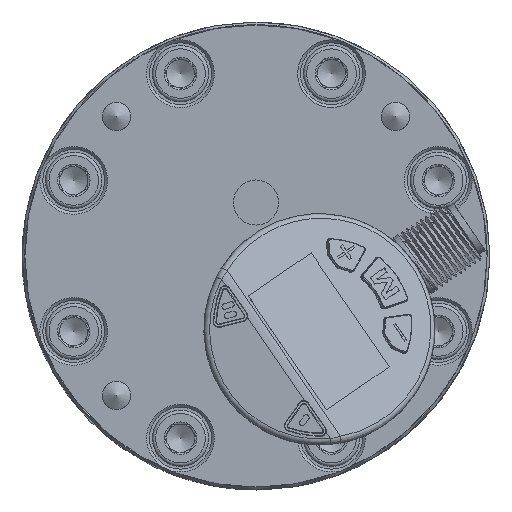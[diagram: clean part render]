
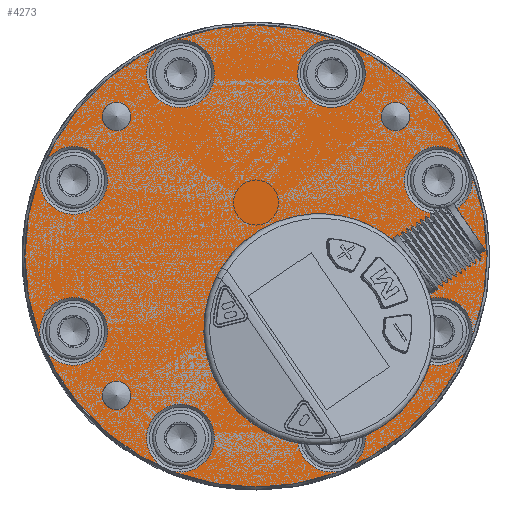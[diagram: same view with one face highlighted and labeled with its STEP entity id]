
A CAD part, top view. The second image highlights one B-rep face of the part: STEP entity #4273.
In plain terms, the highlighted planar face has unit normal (0, 0, -1).
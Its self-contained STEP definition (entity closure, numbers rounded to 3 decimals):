
#4273=ADVANCED_FACE('',(#5329,#5330,#5331,#5332,#5333,#5334,#5335,#5336,
#5337,#5338,#5339,#5340,#5341),#4970,.F.);
#4970=PLANE('',#13685);
#5329=FACE_BOUND('',#6110,.T.);
#5330=FACE_BOUND('',#6111,.T.);
#5331=FACE_BOUND('',#6112,.T.);
#5332=FACE_BOUND('',#6113,.T.);
#5333=FACE_BOUND('',#6114,.T.);
#5334=FACE_BOUND('',#6115,.T.);
#5335=FACE_BOUND('',#6116,.T.);
#5336=FACE_BOUND('',#6117,.T.);
#5337=FACE_BOUND('',#6118,.T.);
#5338=FACE_BOUND('',#6119,.T.);
#5339=FACE_BOUND('',#6120,.T.);
#5340=FACE_BOUND('',#6121,.T.);
#5341=FACE_BOUND('',#6122,.T.);
#6110=EDGE_LOOP('',(#7669));
#6111=EDGE_LOOP('',(#7670));
#6112=EDGE_LOOP('',(#7671));
#6113=EDGE_LOOP('',(#7672));
#6114=EDGE_LOOP('',(#7673));
#6115=EDGE_LOOP('',(#7674));
#6116=EDGE_LOOP('',(#7675));
#6117=EDGE_LOOP('',(#7676));
#6118=EDGE_LOOP('',(#7677));
#6119=EDGE_LOOP('',(#7678));
#6120=EDGE_LOOP('',(#7679));
#6121=EDGE_LOOP('',(#7680));
#6122=EDGE_LOOP('',(#7681));
#7669=ORIENTED_EDGE('',*,*,#11407,.T.);
#7670=ORIENTED_EDGE('',*,*,#11377,.T.);
#7671=ORIENTED_EDGE('',*,*,#11369,.T.);
#7672=ORIENTED_EDGE('',*,*,#11349,.T.);
#7673=ORIENTED_EDGE('',*,*,#11365,.T.);
#7674=ORIENTED_EDGE('',*,*,#11373,.T.);
#7675=ORIENTED_EDGE('',*,*,#11353,.T.);
#7676=ORIENTED_EDGE('',*,*,#11361,.T.);
#7677=ORIENTED_EDGE('',*,*,#11357,.T.);
#7678=ORIENTED_EDGE('',*,*,#11408,.T.);
#7679=ORIENTED_EDGE('',*,*,#11409,.T.);
#7680=ORIENTED_EDGE('',*,*,#11410,.T.);
#7681=ORIENTED_EDGE('',*,*,#11411,.T.);
#10161=VERTEX_POINT('',#19131);
#10165=VERTEX_POINT('',#19142);
#10169=VERTEX_POINT('',#19153);
#10173=VERTEX_POINT('',#19164);
#10177=VERTEX_POINT('',#19175);
#10181=VERTEX_POINT('',#19186);
#10185=VERTEX_POINT('',#19197);
#10189=VERTEX_POINT('',#19208);
#10211=VERTEX_POINT('',#19264);
#10212=VERTEX_POINT('',#19266);
#10213=VERTEX_POINT('',#19268);
#10214=VERTEX_POINT('',#19270);
#10215=VERTEX_POINT('',#19272);
#11349=EDGE_CURVE('',#10161,#10161,#12680,.T.);
#11353=EDGE_CURVE('',#10165,#10165,#12684,.T.);
#11357=EDGE_CURVE('',#10169,#10169,#12688,.T.);
#11361=EDGE_CURVE('',#10173,#10173,#12692,.T.);
#11365=EDGE_CURVE('',#10177,#10177,#12696,.T.);
#11369=EDGE_CURVE('',#10181,#10181,#12700,.T.);
#11373=EDGE_CURVE('',#10185,#10185,#12704,.T.);
#11377=EDGE_CURVE('',#10189,#10189,#12708,.T.);
#11407=EDGE_CURVE('',#10211,#10211,#12738,.T.);
#11408=EDGE_CURVE('',#10212,#10212,#12739,.T.);
#11409=EDGE_CURVE('',#10213,#10213,#12740,.T.);
#11410=EDGE_CURVE('',#10214,#10214,#12741,.T.);
#11411=EDGE_CURVE('',#10215,#10215,#12742,.T.);
#12680=CIRCLE('',#13597,3.25);
#12684=CIRCLE('',#13604,3.25);
#12688=CIRCLE('',#13611,3.25);
#12692=CIRCLE('',#13618,3.25);
#12696=CIRCLE('',#13625,3.25);
#12700=CIRCLE('',#13632,3.25);
#12704=CIRCLE('',#13639,3.25);
#12708=CIRCLE('',#13646,3.25);
#12738=CIRCLE('',#13680,41.);
#12739=CIRCLE('',#13681,2.5);
#12740=CIRCLE('',#13682,2.5);
#12741=CIRCLE('',#13683,2.5);
#12742=CIRCLE('',#13684,2.5);
#13597=AXIS2_PLACEMENT_3D('',#19130,#15590,#15591);
#13604=AXIS2_PLACEMENT_3D('',#19141,#15604,#15605);
#13611=AXIS2_PLACEMENT_3D('',#19152,#15618,#15619);
#13618=AXIS2_PLACEMENT_3D('',#19163,#15632,#15633);
#13625=AXIS2_PLACEMENT_3D('',#19174,#15646,#15647);
#13632=AXIS2_PLACEMENT_3D('',#19185,#15660,#15661);
#13639=AXIS2_PLACEMENT_3D('',#19196,#15674,#15675);
#13646=AXIS2_PLACEMENT_3D('',#19207,#15688,#15689);
#13680=AXIS2_PLACEMENT_3D('',#19263,#15756,#15757);
#13681=AXIS2_PLACEMENT_3D('',#19265,#15758,#15759);
#13682=AXIS2_PLACEMENT_3D('',#19267,#15760,#15761);
#13683=AXIS2_PLACEMENT_3D('',#19269,#15762,#15763);
#13684=AXIS2_PLACEMENT_3D('',#19271,#15764,#15765);
#13685=AXIS2_PLACEMENT_3D('',#19273,#15766,#15767);
#15590=DIRECTION('',(0.,0.,1.));
#15591=DIRECTION('',(1.,0.,0.));
#15604=DIRECTION('',(0.,0.,1.));
#15605=DIRECTION('',(1.,0.,0.));
#15618=DIRECTION('',(0.,0.,1.));
#15619=DIRECTION('',(1.,0.,0.));
#15632=DIRECTION('',(0.,0.,1.));
#15633=DIRECTION('',(1.,0.,0.));
#15646=DIRECTION('',(0.,0.,1.));
#15647=DIRECTION('',(1.,0.,0.));
#15660=DIRECTION('',(0.,0.,1.));
#15661=DIRECTION('',(1.,0.,0.));
#15674=DIRECTION('',(0.,0.,1.));
#15675=DIRECTION('',(1.,0.,0.));
#15688=DIRECTION('',(0.,0.,1.));
#15689=DIRECTION('',(1.,0.,0.));
#15756=DIRECTION('',(0.,0.,-1.));
#15757=DIRECTION('',(1.,0.,0.));
#15758=DIRECTION('',(0.,0.,1.));
#15759=DIRECTION('',(1.,0.,0.));
#15760=DIRECTION('',(0.,0.,1.));
#15761=DIRECTION('',(1.,0.,0.));
#15762=DIRECTION('',(0.,0.,1.));
#15763=DIRECTION('',(1.,0.,0.));
#15764=DIRECTION('',(0.,0.,1.));
#15765=DIRECTION('',(1.,0.,0.));
#15766=DIRECTION('',(0.,0.,1.));
#15767=DIRECTION('',(1.,0.,0.));
#19130=CARTESIAN_POINT('',(32.336,14.394,67.6));
#19131=CARTESIAN_POINT('',(35.586,14.394,67.6));
#19141=CARTESIAN_POINT('',(-13.394,-31.336,67.6));
#19142=CARTESIAN_POINT('',(-10.144,-31.336,67.6));
#19152=CARTESIAN_POINT('',(-32.336,14.394,67.6));
#19153=CARTESIAN_POINT('',(-29.086,14.394,67.6));
#19163=CARTESIAN_POINT('',(-32.336,-12.394,67.6));
#19164=CARTESIAN_POINT('',(-29.086,-12.394,67.6));
#19174=CARTESIAN_POINT('',(32.336,-12.394,67.6));
#19175=CARTESIAN_POINT('',(35.586,-12.394,67.6));
#19185=CARTESIAN_POINT('',(13.394,33.336,67.6));
#19186=CARTESIAN_POINT('',(16.644,33.336,67.6));
#19196=CARTESIAN_POINT('',(13.394,-31.336,67.6));
#19197=CARTESIAN_POINT('',(16.644,-31.336,67.6));
#19207=CARTESIAN_POINT('',(-13.394,33.336,67.6));
#19208=CARTESIAN_POINT('',(-10.144,33.336,67.6));
#19263=CARTESIAN_POINT('',(0.,1.,67.6));
#19264=CARTESIAN_POINT('',(41.,1.,67.6));
#19265=CARTESIAN_POINT('',(-24.749,-23.749,67.6));
#19266=CARTESIAN_POINT('',(-22.249,-23.749,67.6));
#19267=CARTESIAN_POINT('',(24.749,-23.749,67.6));
#19268=CARTESIAN_POINT('',(27.249,-23.749,67.6));
#19269=CARTESIAN_POINT('',(24.749,25.749,67.6));
#19270=CARTESIAN_POINT('',(27.249,25.749,67.6));
#19271=CARTESIAN_POINT('',(-24.749,25.749,67.6));
#19272=CARTESIAN_POINT('',(-22.249,25.749,67.6));
#19273=CARTESIAN_POINT('',(0.,1.,67.6));
